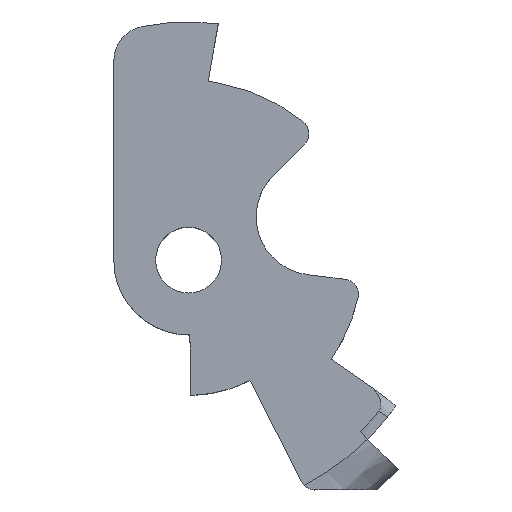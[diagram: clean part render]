
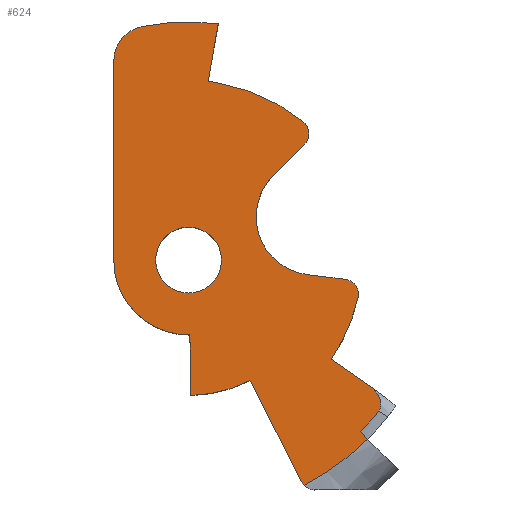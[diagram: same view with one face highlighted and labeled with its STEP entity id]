
A CAD part, top view. The second image highlights one B-rep face of the part: STEP entity #624.
In plain terms, the highlighted planar face has unit normal (0, 0, 1).
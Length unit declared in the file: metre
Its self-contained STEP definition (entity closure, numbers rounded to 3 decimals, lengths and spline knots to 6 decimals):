
#25=PLANE('',#700);
#32=LINE('',#1037,#73);
#35=LINE('',#1051,#76);
#41=LINE('',#1066,#82);
#45=LINE('',#1078,#86);
#49=LINE('',#1090,#90);
#53=LINE('',#1099,#94);
#57=LINE('',#1108,#98);
#61=LINE('',#1129,#102);
#64=LINE('',#1134,#105);
#68=LINE('',#1215,#109);
#73=VECTOR('',#736,1.);
#76=VECTOR('',#745,1.);
#82=VECTOR('',#757,1.);
#86=VECTOR('',#769,1.);
#90=VECTOR('',#781,1.);
#94=VECTOR('',#787,1.);
#98=VECTOR('',#793,1.);
#102=VECTOR('',#817,1.);
#105=VECTOR('',#822,1.);
#109=VECTOR('',#866,1.);
#113=CIRCLE('',#645,0.00762);
#114=CIRCLE('',#650,0.010311);
#116=CIRCLE('',#654,0.010835);
#120=CIRCLE('',#661,0.005743);
#122=CIRCLE('',#665,0.003175);
#124=CIRCLE('',#671,0.007366);
#126=CIRCLE('',#674,0.002478);
#128=CIRCLE('',#677,0.001397);
#131=CIRCLE('',#684,0.000635);
#133=CIRCLE('',#687,0.000635);
#135=CIRCLE('',#690,0.000635);
#137=CIRCLE('',#695,0.010107);
#139=CIRCLE('',#698,0.0015);
#157=ELLIPSE('',#648,0.000899,0.000635);
#297=ORIENTED_EDGE('',*,*,#409,.F.);
#298=ORIENTED_EDGE('',*,*,#436,.F.);
#299=ORIENTED_EDGE('',*,*,#369,.F.);
#300=ORIENTED_EDGE('',*,*,#405,.T.);
#301=ORIENTED_EDGE('',*,*,#427,.T.);
#302=ORIENTED_EDGE('',*,*,#402,.T.);
#303=ORIENTED_EDGE('',*,*,#407,.T.);
#304=ORIENTED_EDGE('',*,*,#398,.T.);
#305=ORIENTED_EDGE('',*,*,#425,.T.);
#306=ORIENTED_EDGE('',*,*,#357,.T.);
#307=ORIENTED_EDGE('',*,*,#415,.F.);
#308=ORIENTED_EDGE('',*,*,#412,.T.);
#309=ORIENTED_EDGE('',*,*,#433,.T.);
#310=ORIENTED_EDGE('',*,*,#435,.T.);
#311=ORIENTED_EDGE('',*,*,#394,.T.);
#312=ORIENTED_EDGE('',*,*,#390,.T.);
#313=ORIENTED_EDGE('',*,*,#388,.T.);
#314=ORIENTED_EDGE('',*,*,#384,.T.);
#315=ORIENTED_EDGE('',*,*,#382,.T.);
#316=ORIENTED_EDGE('',*,*,#430,.T.);
#317=ORIENTED_EDGE('',*,*,#370,.T.);
#318=ORIENTED_EDGE('',*,*,#374,.T.);
#319=ORIENTED_EDGE('',*,*,#364,.F.);
#320=ORIENTED_EDGE('',*,*,#360,.F.);
#357=EDGE_CURVE('',#446,#449,#113,.T.);
#360=EDGE_CURVE('',#452,#453,#157,.F.);
#364=EDGE_CURVE('',#453,#455,#114,.F.);
#369=EDGE_CURVE('',#458,#454,#32,.T.);
#370=EDGE_CURVE('',#459,#460,#116,.T.);
#374=EDGE_CURVE('',#460,#455,#35,.T.);
#382=EDGE_CURVE('',#465,#468,#41,.T.);
#384=EDGE_CURVE('',#470,#465,#120,.T.);
#388=EDGE_CURVE('',#471,#470,#45,.T.);
#390=EDGE_CURVE('',#474,#471,#122,.T.);
#394=EDGE_CURVE('',#475,#474,#49,.T.);
#398=EDGE_CURVE('',#477,#480,#53,.T.);
#402=EDGE_CURVE('',#481,#484,#57,.T.);
#405=EDGE_CURVE('',#458,#486,#124,.T.);
#407=EDGE_CURVE('',#484,#477,#126,.T.);
#409=EDGE_CURVE('',#488,#488,#128,.T.);
#412=EDGE_CURVE('',#492,#491,#61,.T.);
#415=EDGE_CURVE('',#492,#449,#64,.T.);
#425=EDGE_CURVE('',#480,#446,#131,.T.);
#427=EDGE_CURVE('',#486,#481,#133,.T.);
#430=EDGE_CURVE('',#468,#459,#135,.T.);
#433=EDGE_CURVE('',#491,#499,#137,.T.);
#435=EDGE_CURVE('',#499,#475,#139,.T.);
#436=EDGE_CURVE('',#454,#452,#68,.T.);
#446=VERTEX_POINT('',#992);
#449=VERTEX_POINT('',#1000);
#452=VERTEX_POINT('',#1010);
#453=VERTEX_POINT('',#1012);
#454=VERTEX_POINT('',#1021);
#455=VERTEX_POINT('',#1028);
#458=VERTEX_POINT('',#1036);
#459=VERTEX_POINT('',#1040);
#460=VERTEX_POINT('',#1041);
#465=VERTEX_POINT('',#1060);
#468=VERTEX_POINT('',#1065);
#470=VERTEX_POINT('',#1071);
#471=VERTEX_POINT('',#1075);
#474=VERTEX_POINT('',#1083);
#475=VERTEX_POINT('',#1087);
#477=VERTEX_POINT('',#1093);
#480=VERTEX_POINT('',#1098);
#481=VERTEX_POINT('',#1102);
#484=VERTEX_POINT('',#1107);
#486=VERTEX_POINT('',#1113);
#488=VERTEX_POINT('',#1122);
#491=VERTEX_POINT('',#1128);
#492=VERTEX_POINT('',#1130);
#499=VERTEX_POINT('',#1209);
#551=EDGE_LOOP('',(#297));
#552=EDGE_LOOP('',(#298,#299,#300,#301,#302,#303,#304,#305,#306,#307,#308,
#309,#310,#311,#312,#313,#314,#315,#316,#317,#318,#319,#320));
#587=FACE_BOUND('',#551,.T.);
#588=FACE_BOUND('',#552,.T.);
#624=ADVANCED_FACE('',(#587,#588),#25,.T.);
#645=AXIS2_PLACEMENT_3D('',#1001,#717,#718);
#648=AXIS2_PLACEMENT_3D('',#1011,#723,#724);
#650=AXIS2_PLACEMENT_3D('',#1027,#727,#728);
#654=AXIS2_PLACEMENT_3D('',#1039,#739,#740);
#661=AXIS2_PLACEMENT_3D('',#1070,#762,#763);
#665=AXIS2_PLACEMENT_3D('',#1082,#774,#775);
#671=AXIS2_PLACEMENT_3D('',#1114,#799,#800);
#674=AXIS2_PLACEMENT_3D('',#1117,#805,#806);
#677=AXIS2_PLACEMENT_3D('',#1121,#811,#812);
#684=AXIS2_PLACEMENT_3D('',#1195,#832,#833);
#687=AXIS2_PLACEMENT_3D('',#1198,#838,#839);
#690=AXIS2_PLACEMENT_3D('',#1202,#845,#846);
#695=AXIS2_PLACEMENT_3D('',#1210,#856,#857);
#698=AXIS2_PLACEMENT_3D('',#1213,#862,#863);
#700=AXIS2_PLACEMENT_3D('',#1216,#867,#868);
#717=DIRECTION('',(0.,0.,1.));
#718=DIRECTION('',(1.,0.,0.));
#723=DIRECTION('',(0.,0.,1.));
#724=DIRECTION('',(-0.821,0.571,0.));
#727=DIRECTION('',(0.,0.,1.));
#728=DIRECTION('',(1.,0.,0.));
#736=DIRECTION('',(0.821,-0.571,0.));
#739=DIRECTION('',(0.,0.,1.));
#740=DIRECTION('',(1.,0.,0.));
#745=DIRECTION('',(-0.707,0.707,0.));
#757=DIRECTION('',(0.454,-0.891,0.));
#762=DIRECTION('',(0.,0.,1.));
#763=DIRECTION('',(1.,0.,0.));
#769=DIRECTION('',(0.017,-1.,0.));
#774=DIRECTION('',(0.,0.,1.));
#775=DIRECTION('',(1.,0.,0.));
#781=DIRECTION('',(0.,-1.,0.));
#787=DIRECTION('',(0.707,0.707,0.));
#793=DIRECTION('',(-0.993,0.122,0.));
#799=DIRECTION('',(0.,0.,1.));
#800=DIRECTION('',(1.,0.,0.));
#805=DIRECTION('',(0.,0.,-1.));
#806=DIRECTION('',(1.,0.,0.));
#811=DIRECTION('',(0.,0.,1.));
#812=DIRECTION('',(1.,0.,0.));
#817=DIRECTION('',(0.174,0.985,0.));
#822=DIRECTION('',(0.985,-0.174,0.));
#832=DIRECTION('',(0.,0.,1.));
#833=DIRECTION('',(1.,0.,0.));
#838=DIRECTION('',(0.,0.,1.));
#839=DIRECTION('',(1.,0.,0.));
#845=DIRECTION('',(0.,0.,1.));
#846=DIRECTION('',(1.,0.,0.));
#856=DIRECTION('',(0.,0.,1.));
#857=DIRECTION('',(1.,0.,0.));
#862=DIRECTION('',(0.,0.,1.));
#863=DIRECTION('',(1.,0.,0.));
#866=DIRECTION('',(0.821,-0.571,0.));
#867=DIRECTION('',(0.,0.,1.));
#868=DIRECTION('',(1.,0.,0.));
#992=CARTESIAN_POINT('',(0.010591,0.005856,0.003075));
#1000=CARTESIAN_POINT('',(0.007038,0.007504,0.003075));
#1001=CARTESIAN_POINT('',(0.005715,0.,0.003075));
#1010=CARTESIAN_POINT('',(0.013428,-0.005369,0.003075));
#1011=CARTESIAN_POINT('',(0.01306,-0.005886,0.003075));
#1012=CARTESIAN_POINT('',(0.01378,-0.006423,0.003075));
#1021=CARTESIAN_POINT('',(0.013423,-0.005365,0.003075));
#1027=CARTESIAN_POINT('',(0.005715,0.,0.003075));
#1028=CARTESIAN_POINT('',(0.013006,-0.007291,0.003075));
#1036=CARTESIAN_POINT('',(0.011761,-0.004208,0.003075));
#1037=CARTESIAN_POINT('',(0.011239,-0.003845,0.003075));
#1039=CARTESIAN_POINT('',(0.005664,0.000076,0.003075));
#1040=CARTESIAN_POINT('',(0.010618,-0.009559,0.003075));
#1041=CARTESIAN_POINT('',(0.013313,-0.007598,0.003075));
#1051=CARTESIAN_POINT('',(0.010924,-0.005209,0.003075));
#1060=CARTESIAN_POINT('',(0.008322,-0.005117,0.003075));
#1065=CARTESIAN_POINT('',(0.010507,-0.009404,0.003075));
#1066=CARTESIAN_POINT('',(0.008322,-0.005117,0.003075));
#1070=CARTESIAN_POINT('',(0.005715,0.,0.003075));
#1071=CARTESIAN_POINT('',(0.005815,-0.005742,0.003075));
#1075=CARTESIAN_POINT('',(0.00577,-0.003175,0.003075));
#1078=CARTESIAN_POINT('',(0.005815,-0.005742,0.003075));
#1082=CARTESIAN_POINT('',(0.005715,0.,0.003075));
#1083=CARTESIAN_POINT('',(0.00254,0.,0.003075));
#1087=CARTESIAN_POINT('',(0.00254,0.008442,0.003075));
#1090=CARTESIAN_POINT('',(0.00254,0.009279,0.003075));
#1093=CARTESIAN_POINT('',(0.009308,0.003593,0.003075));
#1098=CARTESIAN_POINT('',(0.010634,0.004919,0.003075));
#1099=CARTESIAN_POINT('',(0.009308,0.003593,0.003075));
#1102=CARTESIAN_POINT('',(0.012366,-0.000817,0.003075));
#1107=CARTESIAN_POINT('',(0.010758,-0.000619,0.003075));
#1108=CARTESIAN_POINT('',(0.013026,-0.000898,0.003075));
#1113=CARTESIAN_POINT('',(0.012909,-0.001583,0.003075));
#1114=CARTESIAN_POINT('',(0.005715,0.,0.003075));
#1117=CARTESIAN_POINT('',(0.01106,0.001841,0.003075));
#1121=CARTESIAN_POINT('',(0.005715,0.,0.003075));
#1122=CARTESIAN_POINT('',(0.007112,0.,0.003075));
#1128=CARTESIAN_POINT('',(0.006975,0.010028,0.003075));
#1129=CARTESIAN_POINT('',(0.006762,0.008816,0.003075));
#1130=CARTESIAN_POINT('',(0.006546,0.007591,0.003075));
#1134=CARTESIAN_POINT('',(0.006792,0.007548,0.003075));
#1195=CARTESIAN_POINT('',(0.010185,0.005368,0.003075));
#1198=CARTESIAN_POINT('',(0.012289,-0.001447,0.003075));
#1202=CARTESIAN_POINT('',(0.011073,-0.009116,0.003075));
#1209=CARTESIAN_POINT('',(0.003748,0.009914,0.003075));
#1210=CARTESIAN_POINT('',(0.005715,0.,0.003075));
#1213=CARTESIAN_POINT('',(0.00404,0.008442,0.003075));
#1215=CARTESIAN_POINT('',(0.011239,-0.003845,0.003075));
#1216=CARTESIAN_POINT('',(0.005715,0.,0.003075));
